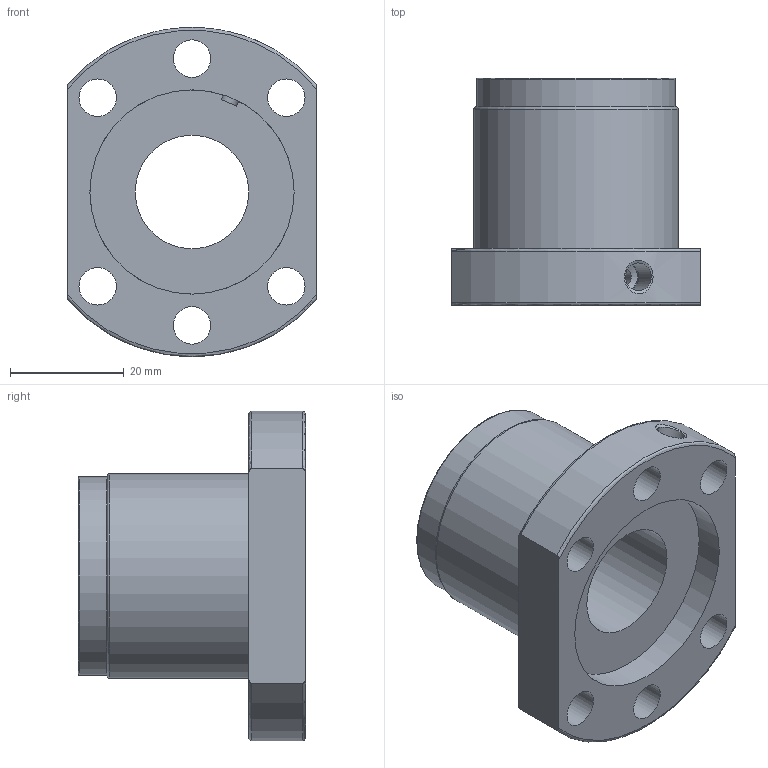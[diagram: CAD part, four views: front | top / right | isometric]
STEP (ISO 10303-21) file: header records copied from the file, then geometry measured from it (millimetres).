
FILE_DESCRIPTION(/* description */ ('Unknown'),/* implementation_level */ '2;1');
FILE_NAME(/* name */ '2005',/* time_stamp */ '2020-11-10T14:03:33+08:00',/* author */ ('Unknown'),/* organization */ ('Unknown'),/* preprocessor_version */ 'ST-DEVELOPER v16.7',/* originating_system */ 'DEX',/* authorisation */ $);
FILE_SCHEMA (('AUTOMOTIVE_DESIGN {1 0 10303 214 3 1 1}'));
Length unit declared in the file: millimetre
Products named in the file (1): 2005
Bounding box: 44 x 40 x 58 mm (x, y, z)
Volume: 34738.5 mm3; surface area: 12715.1 mm2
Topology: 1 solids, 1 shells, 30 faces, 83 edges, 56 vertices
Faces by surface type: cylinder 15, plane 7, torus 6, cone 2
Full cylindrical faces by diameter (mm): 3 x1, 4.917 x2, 6.6 x6, 20 x1, 35 x1, 36 x2
Entity records: 1588 total; most frequent: CARTESIAN_POINT 680, DIRECTION 141, ORIENTED_EDGE 110, AXIS2_PLACEMENT_3D 65, EDGE_LOOP 64, FACE_BOUND 64, EDGE_CURVE 55, VERTEX_POINT 45
